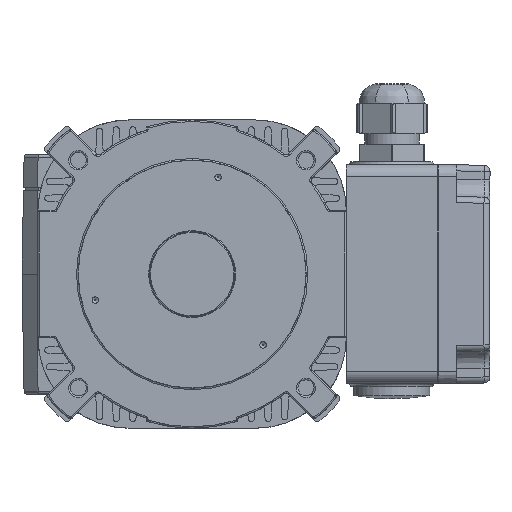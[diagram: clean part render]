
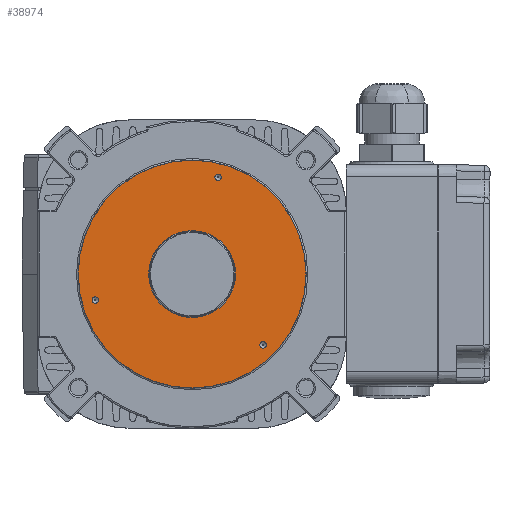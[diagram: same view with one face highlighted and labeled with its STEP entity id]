
A CAD part, left-side view. The second image highlights one B-rep face of the part: STEP entity #38974.
In plain terms, the highlighted planar face has unit normal (-1, 0, 0) as drawn and (0, 0, 1) by its records, which use the part's own axes.
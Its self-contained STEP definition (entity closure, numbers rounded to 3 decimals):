
#3039 = EDGE_CURVE ( 'NONE', #20992, #20992, #18740, .T. ) ;
#4055 = DIRECTION ( 'NONE',  ( 1., 0., 0. ) ) ;
#4327 = CARTESIAN_POINT ( 'NONE',  ( 0., 0., 19.3 ) ) ;
#4600 = VERTEX_POINT ( 'NONE', #14881 ) ;
#7883 = VERTEX_POINT ( 'NONE', #31234 ) ;
#8310 = FACE_BOUND ( 'NONE', #14006, .T. ) ;
#11140 = AXIS2_PLACEMENT_3D ( 'NONE', #34953, #21618, #17552 ) ;
#11297 = CARTESIAN_POINT ( 'NONE',  ( -31.876, 8.541, 19.3 ) ) ;
#12576 = EDGE_LOOP ( 'NONE', ( #14618 ) ) ;
#13182 = CARTESIAN_POINT ( 'NONE',  ( 0., 0., 19.3 ) ) ;
#13193 = CIRCLE ( 'NONE', #40557, 37.5 ) ;
#13333 = DIRECTION ( 'NONE',  ( 0., 0., 1. ) ) ;
#13768 = EDGE_CURVE ( 'NONE', #41584, #41584, #13193, .T. ) ;
#14006 = EDGE_LOOP ( 'NONE', ( #36332 ) ) ;
#14555 = EDGE_LOOP ( 'NONE', ( #23811 ) ) ;
#14618 = ORIENTED_EDGE ( 'NONE', *, *, #29441, .F. ) ;
#14881 = CARTESIAN_POINT ( 'NONE',  ( 22.81, 24.244, 19.3 ) ) ;
#14924 = DIRECTION ( 'NONE',  ( 0., 0., 1. ) ) ;
#16981 = FACE_BOUND ( 'NONE', #14555, .T. ) ;
#17552 = DIRECTION ( 'NONE',  ( 1., 0., 0. ) ) ;
#18291 = DIRECTION ( 'NONE',  ( -0.5, -0.866, 0. ) ) ;
#18740 = CIRCLE ( 'NONE', #31917, 1.05 ) ;
#18763 = DIRECTION ( 'NONE',  ( 0., 0., 1. ) ) ;
#19204 = DIRECTION ( 'NONE',  ( 1., 0., 0. ) ) ;
#19911 = EDGE_CURVE ( 'NONE', #7883, #7883, #27979, .T. ) ;
#20090 = CARTESIAN_POINT ( 'NONE',  ( 9.591, -31.876, 19.3 ) ) ;
#20483 = PLANE ( 'NONE',  #30706 ) ;
#20992 = VERTEX_POINT ( 'NONE', #20090 ) ;
#21204 = CIRCLE ( 'NONE', #33662, 1.05 ) ;
#21618 = DIRECTION ( 'NONE',  ( 0., 0., -1. ) ) ;
#21767 = DIRECTION ( 'NONE',  ( -0.5, 0.866, 0. ) ) ;
#23811 = ORIENTED_EDGE ( 'NONE', *, *, #40427, .F. ) ;
#23958 = AXIS2_PLACEMENT_3D ( 'NONE', #28703, #18763, #21767 ) ;
#25965 = DIRECTION ( 'NONE',  ( 0., 0., 1. ) ) ;
#26158 = FACE_BOUND ( 'NONE', #12576, .T. ) ;
#27367 = EDGE_LOOP ( 'NONE', ( #27507 ) ) ;
#27507 = ORIENTED_EDGE ( 'NONE', *, *, #3039, .F. ) ;
#27828 = FACE_OUTER_BOUND ( 'NONE', #37486, .T. ) ;
#27979 = CIRCLE ( 'NONE', #11140, 14.3 ) ;
#28389 = CIRCLE ( 'NONE', #23958, 1.05 ) ;
#28639 = CARTESIAN_POINT ( 'NONE',  ( -32.401, 7.632, 19.3 ) ) ;
#28703 = CARTESIAN_POINT ( 'NONE',  ( 23.335, 23.335, 19.3 ) ) ;
#29441 = EDGE_CURVE ( 'NONE', #4600, #4600, #28389, .T. ) ;
#29513 = VERTEX_POINT ( 'NONE', #28639 ) ;
#30706 = AXIS2_PLACEMENT_3D ( 'NONE', #13182, #13333, #4055 ) ;
#31234 = CARTESIAN_POINT ( 'NONE',  ( 14.3, 0., 19.3 ) ) ;
#31917 = AXIS2_PLACEMENT_3D ( 'NONE', #40111, #25965, #19204 ) ;
#33662 = AXIS2_PLACEMENT_3D ( 'NONE', #11297, #14924, #18291 ) ;
#34285 = CARTESIAN_POINT ( 'NONE',  ( 37.5, 0., 19.3 ) ) ;
#34891 = ORIENTED_EDGE ( 'NONE', *, *, #13768, .T. ) ;
#34953 = CARTESIAN_POINT ( 'NONE',  ( 0., 0., 19.3 ) ) ;
#35393 = FACE_BOUND ( 'NONE', #27367, .T. ) ;
#35558 = DIRECTION ( 'NONE',  ( 0., 0., 1. ) ) ;
#36332 = ORIENTED_EDGE ( 'NONE', *, *, #19911, .T. ) ;
#37486 = EDGE_LOOP ( 'NONE', ( #34891 ) ) ;
#38974 = ADVANCED_FACE ( 'NONE', ( #8310, #27828, #35393, #26158, #16981 ), #20483, .T. ) ;
#39082 = DIRECTION ( 'NONE',  ( 1., 0., 0. ) ) ;
#40111 = CARTESIAN_POINT ( 'NONE',  ( 8.541, -31.876, 19.3 ) ) ;
#40427 = EDGE_CURVE ( 'NONE', #29513, #29513, #21204, .T. ) ;
#40557 = AXIS2_PLACEMENT_3D ( 'NONE', #4327, #35558, #39082 ) ;
#41584 = VERTEX_POINT ( 'NONE', #34285 ) ;
